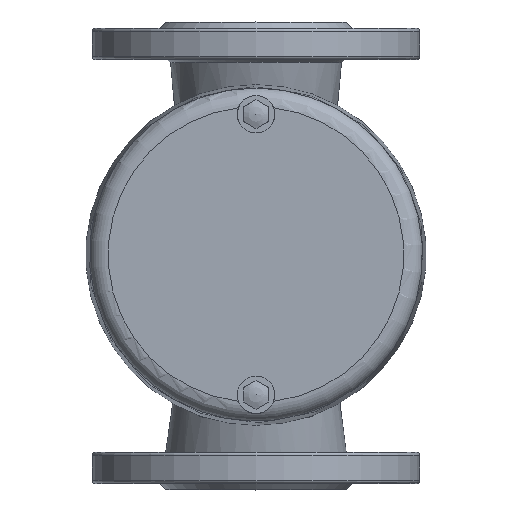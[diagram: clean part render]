
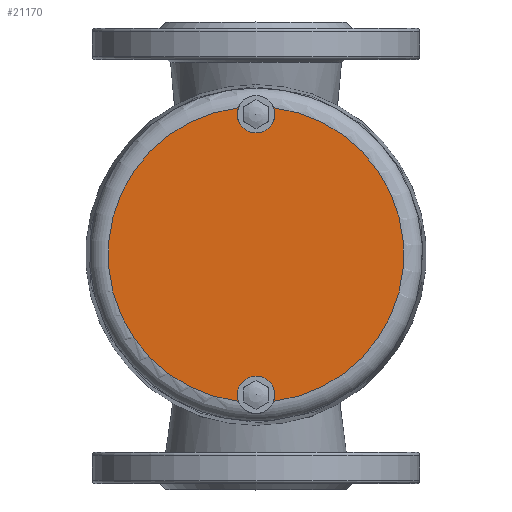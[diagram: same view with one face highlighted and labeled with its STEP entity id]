
A CAD part, top view. The second image highlights one B-rep face of the part: STEP entity #21170.
In plain terms, the highlighted planar face has unit normal (0, 0, 1).
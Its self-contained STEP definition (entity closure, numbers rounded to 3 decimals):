
#4893=PLANE('',#22640);
#5848=FACE_OUTER_BOUND('',#7193,.T.);
#7193=EDGE_LOOP('',(#15478,#15479,#15480,#15481));
#8535=CIRCLE('',#22614,6.);
#8539=CIRCLE('',#22621,47.416);
#8540=CIRCLE('',#22622,47.416);
#8542=CIRCLE('',#22625,6.);
#9524=VERTEX_POINT('',#32524);
#9525=VERTEX_POINT('',#32531);
#9528=VERTEX_POINT('',#32545);
#9529=VERTEX_POINT('',#32547);
#11817=EDGE_CURVE('',#9525,#9524,#8535,.T.);
#11822=EDGE_CURVE('',#9524,#9528,#8539,.T.);
#11823=EDGE_CURVE('',#9529,#9525,#8540,.T.);
#11827=EDGE_CURVE('',#9528,#9529,#8542,.T.);
#15478=ORIENTED_EDGE('',*,*,#11817,.T.);
#15479=ORIENTED_EDGE('',*,*,#11822,.T.);
#15480=ORIENTED_EDGE('',*,*,#11827,.T.);
#15481=ORIENTED_EDGE('',*,*,#11823,.T.);
#21170=ADVANCED_FACE('',(#5848),#4893,.T.);
#22614=AXIS2_PLACEMENT_3D('',#32532,#25205,#25206);
#22621=AXIS2_PLACEMENT_3D('',#32546,#25219,#25220);
#22622=AXIS2_PLACEMENT_3D('',#32548,#25221,#25222);
#22625=AXIS2_PLACEMENT_3D('',#32563,#25227,#25228);
#22640=AXIS2_PLACEMENT_3D('',#32597,#25263,#25264);
#25205=DIRECTION('center_axis',(0.,0.,
-1.));
#25206=DIRECTION('ref_axis',(0.938,-0.347,0.));
#25219=DIRECTION('center_axis',(0.,0.,1.));
#25220=DIRECTION('ref_axis',(0.119,0.993,0.));
#25221=DIRECTION('center_axis',(0.,0.,
1.));
#25222=DIRECTION('ref_axis',(-0.119,-0.993,0.));
#25227=DIRECTION('center_axis',(0.,0.,-1.));
#25228=DIRECTION('ref_axis',(0.,-1.,0.));
#25263=DIRECTION('center_axis',(0.,0.,1.));
#25264=DIRECTION('ref_axis',(1.,0.,0.));
#32524=CARTESIAN_POINT('',(873.521,622.856,2233.664));
#32531=CARTESIAN_POINT('',(862.266,622.856,2233.664));
#32532=CARTESIAN_POINT('Origin',(867.894,624.937,2233.664));
#32545=CARTESIAN_POINT('',(873.521,717.019,2233.664));
#32546=CARTESIAN_POINT('Origin',(867.894,669.937,2233.664));
#32547=CARTESIAN_POINT('',(862.266,717.019,2233.664));
#32548=CARTESIAN_POINT('Origin',(867.894,669.937,2233.664));
#32563=CARTESIAN_POINT('Origin',(867.894,714.937,2233.664));
#32597=CARTESIAN_POINT('Origin',(867.894,717.019,2233.664));
